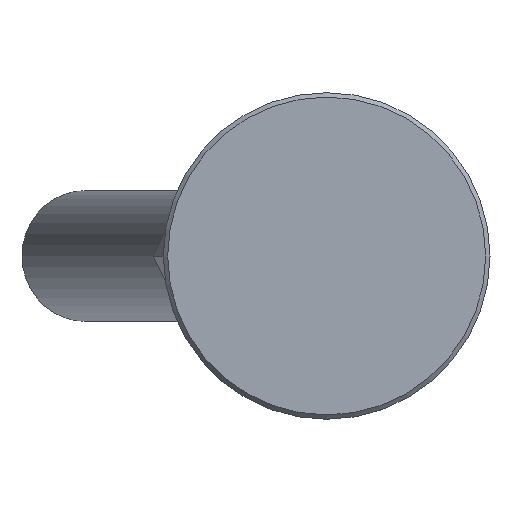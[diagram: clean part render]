
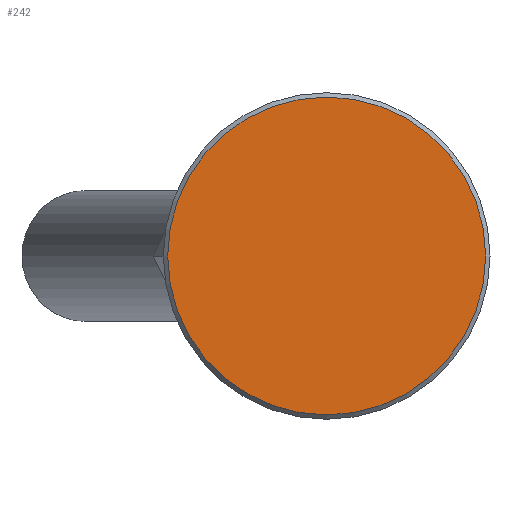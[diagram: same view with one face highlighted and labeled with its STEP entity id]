
A CAD part, front view. The second image highlights one B-rep face of the part: STEP entity #242.
In plain terms, the highlighted planar face has unit normal (0, -1, 0).
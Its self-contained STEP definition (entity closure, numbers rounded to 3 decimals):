
#242 = ADVANCED_FACE( '', ( #459 ), #460, .F. );
#459 = FACE_OUTER_BOUND( '', #655, .T. );
#460 = PLANE( '', #656 );
#655 = EDGE_LOOP( '', ( #1067 ) );
#656 = AXIS2_PLACEMENT_3D( '', #1068, #1069, #1070 );
#1067 = ORIENTED_EDGE( '', *, *, #1241, .T. );
#1068 = CARTESIAN_POINT( '', ( 29.2, 0., 0. ) );
#1069 = DIRECTION( '', ( 0., 1., 0. ) );
#1070 = DIRECTION( '', ( 0., 0., 1. ) );
#1241 = EDGE_CURVE( '', #1456, #1456, #1457, .T. );
#1456 = VERTEX_POINT( '', #1997 );
#1457 = CIRCLE( '', #1998, 29.2 );
#1997 = CARTESIAN_POINT( '', ( 0., 0., -29.2 ) );
#1998 = AXIS2_PLACEMENT_3D( '', #2128, #2129, #2130 );
#2128 = CARTESIAN_POINT( '', ( 0., 0., 0. ) );
#2129 = DIRECTION( '', ( 0., -1., 0. ) );
#2130 = DIRECTION( '', ( 0., 0., -1. ) );
